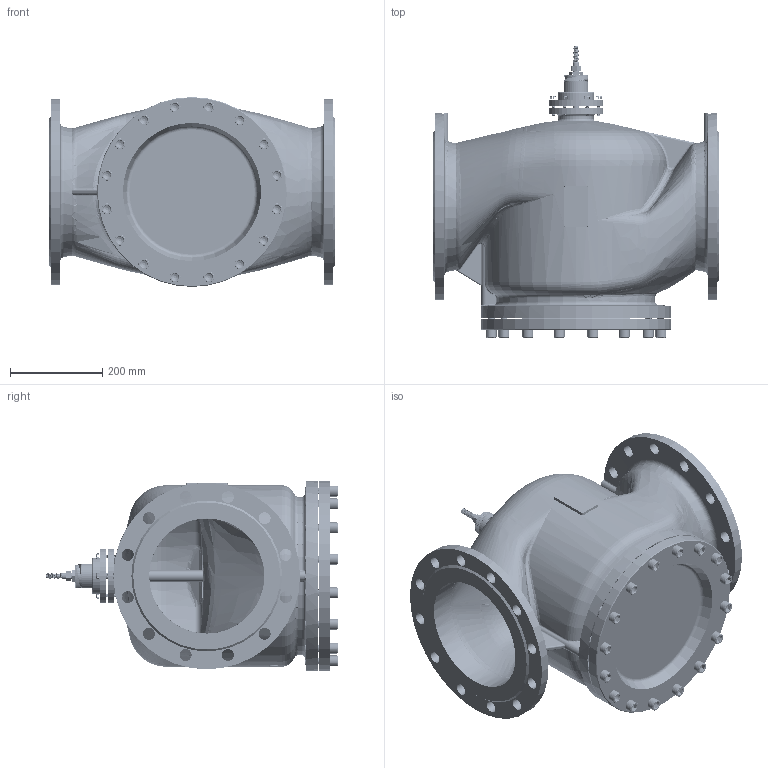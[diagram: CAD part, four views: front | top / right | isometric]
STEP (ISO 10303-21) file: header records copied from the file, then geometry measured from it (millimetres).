
FILE_DESCRIPTION((''),'2;1');
FILE_NAME('3D_STEP_CAD_MODEL_OF__SW0001','2023-03-30T16:32:49',('User'),(''),'CREO PARAMETRIC BY PTC INC, 2019010','CREO PARAMETRIC BY PTC INC, 2019010','');
FILE_SCHEMA(('CONFIG_CONTROL_DESIGN'));
Products named in the file (1): 3D_STEP_CAD_MODEL_OF__SW0001
Bounding box: 622 x 632 x 412 mm (x, y, z)
Surface area: 2714861.2 mm2 (no closed solid volume)
Topology: 0 solids, 99 shells, 1408 faces, 7653 edges, 6228 vertices
Faces by surface type: bspline 537, cylinder 302, plane 282, cone 227, torus 46, extrusion 9, sphere 5
Entity records: 501908 total; most frequent: CARTESIAN_POINT 454400, ORIENTED_EDGE 10543, EDGE_CURVE 7637, VERTEX_POINT 6228, DIRECTION 5804, B_SPLINE_CURVE_WITH_KNOTS 4971, AXIS2_PLACEMENT_3D 2258, EDGE_LOOP 1592
